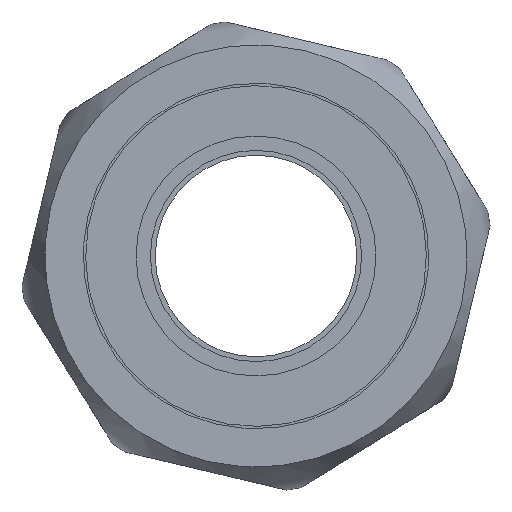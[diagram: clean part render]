
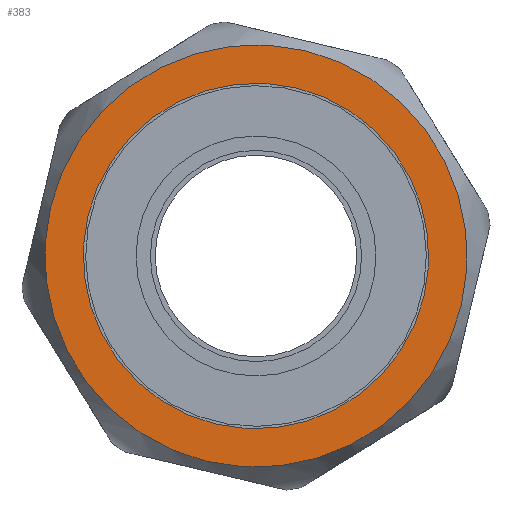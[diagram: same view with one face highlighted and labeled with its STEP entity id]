
A CAD part, left-side view. The second image highlights one B-rep face of the part: STEP entity #383.
In plain terms, the highlighted planar face has unit normal (-1, 0, 0).
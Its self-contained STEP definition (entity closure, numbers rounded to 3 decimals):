
#65=FACE_BOUND('',#144,.T.);
#83=PLANE('',#512);
#105=FACE_OUTER_BOUND('',#143,.T.);
#143=EDGE_LOOP('',(#324));
#144=EDGE_LOOP('',(#325));
#191=CIRCLE('',#507,22.);
#193=CIRCLE('',#511,18.);
#222=VERTEX_POINT('',#1264);
#224=VERTEX_POINT('',#1273);
#257=EDGE_CURVE('',#222,#222,#191,.T.);
#260=EDGE_CURVE('',#224,#224,#193,.T.);
#324=ORIENTED_EDGE('',*,*,#257,.F.);
#325=ORIENTED_EDGE('',*,*,#260,.T.);
#383=ADVANCED_FACE('',(#105,#65),#83,.T.);
#507=AXIS2_PLACEMENT_3D('',#1268,#584,#585);
#511=AXIS2_PLACEMENT_3D('',#1275,#593,#594);
#512=AXIS2_PLACEMENT_3D('',#1276,#595,#596);
#584=DIRECTION('center_axis',(1.,0.,0.));
#585=DIRECTION('ref_axis',(0.,1.,0.));
#593=DIRECTION('center_axis',(1.,0.,0.));
#594=DIRECTION('ref_axis',(0.,1.,0.));
#595=DIRECTION('center_axis',(-1.,0.,0.));
#596=DIRECTION('ref_axis',(0.,0.,1.));
#1264=CARTESIAN_POINT('',(0.,0.,22.));
#1268=CARTESIAN_POINT('Origin',(0.,0.,0.));
#1273=CARTESIAN_POINT('',(0.,-18.,0.));
#1275=CARTESIAN_POINT('Origin',(0.,0.,0.));
#1276=CARTESIAN_POINT('Origin',(0.,20.,0.));
